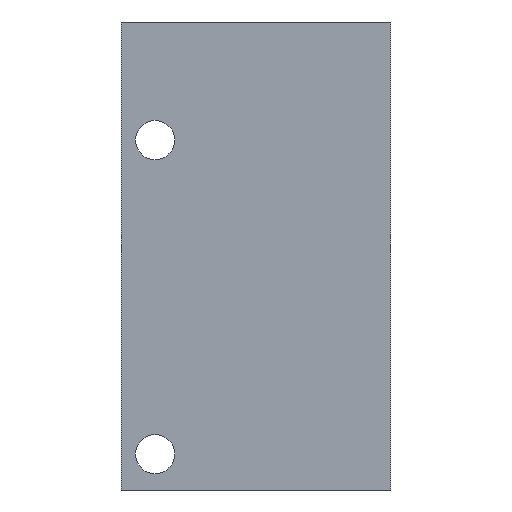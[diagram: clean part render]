
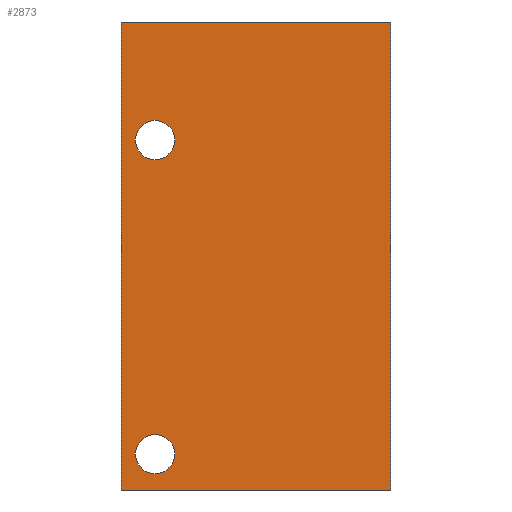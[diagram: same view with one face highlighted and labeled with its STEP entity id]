
A CAD part, front view. The second image highlights one B-rep face of the part: STEP entity #2873.
In plain terms, the highlighted planar face has unit normal (0, -1, 0).
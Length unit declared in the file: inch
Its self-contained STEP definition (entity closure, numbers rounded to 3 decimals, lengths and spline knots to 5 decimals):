
#217=LINE('',#4324,#417);
#353=LINE('',#4903,#553);
#357=LINE('',#5053,#557);
#359=LINE('',#5064,#559);
#417=VECTOR('',#3317,2.608);
#553=VECTOR('',#3549,2.608);
#557=VECTOR('',#3607,1.5);
#559=VECTOR('',#3621,1.5);
#767=PLANE('',#3073);
#853=FACE_BOUND('',#1253,.T.);
#854=FACE_BOUND('',#1254,.T.);
#855=FACE_BOUND('',#1255,.T.);
#1253=EDGE_LOOP('',(#2610));
#1254=EDGE_LOOP('',(#2611));
#1255=EDGE_LOOP('',(#2612,#2613,#2614,#2615));
#1380=CIRCLE('',#3031,0.10938);
#1382=CIRCLE('',#3034,0.10938);
#1513=VERTEX_POINT('',#4317);
#1516=VERTEX_POINT('',#4322);
#1626=VERTEX_POINT('',#4900);
#1627=VERTEX_POINT('',#4902);
#1634=VERTEX_POINT('',#4922);
#1636=VERTEX_POINT('',#4927);
#1799=EDGE_CURVE('',#1516,#1513,#217,.T.);
#1963=EDGE_CURVE('',#1627,#1626,#353,.T.);
#1971=EDGE_CURVE('',#1634,#1634,#1380,.T.);
#1973=EDGE_CURVE('',#1636,#1636,#1382,.T.);
#1983=EDGE_CURVE('',#1627,#1516,#357,.T.);
#1988=EDGE_CURVE('',#1626,#1513,#359,.T.);
#2610=ORIENTED_EDGE('',*,*,#1971,.T.);
#2611=ORIENTED_EDGE('',*,*,#1973,.T.);
#2612=ORIENTED_EDGE('',*,*,#1988,.T.);
#2613=ORIENTED_EDGE('',*,*,#1799,.F.);
#2614=ORIENTED_EDGE('',*,*,#1983,.F.);
#2615=ORIENTED_EDGE('',*,*,#1963,.T.);
#2873=ADVANCED_FACE('',(#853,#854,#855),#767,.T.);
#3031=AXIS2_PLACEMENT_3D('',#4923,#3572,#3573);
#3034=AXIS2_PLACEMENT_3D('',#4928,#3578,#3579);
#3073=AXIS2_PLACEMENT_3D('',#5092,#3660,#3661);
#3317=DIRECTION('',(0.,0.,1.));
#3549=DIRECTION('',(0.,0.,1.));
#3572=DIRECTION('center_axis',(0.,1.,0.));
#3573=DIRECTION('ref_axis',(1.,0.,0.));
#3578=DIRECTION('center_axis',(0.,1.,0.));
#3579=DIRECTION('ref_axis',(1.,0.,0.));
#3607=DIRECTION('',(-1.,0.,0.));
#3621=DIRECTION('',(-1.,0.,0.));
#3660=DIRECTION('center_axis',(0.,-1.,0.));
#3661=DIRECTION('ref_axis',(0.,0.,-1.));
#4317=CARTESIAN_POINT('',(-0.75,-0.5,2.608));
#4322=CARTESIAN_POINT('',(-0.75,-0.5,0.));
#4324=CARTESIAN_POINT('',(-0.75,-0.5,0.));
#4900=CARTESIAN_POINT('',(0.75,-0.5,2.608));
#4902=CARTESIAN_POINT('',(0.75,-0.5,0.));
#4903=CARTESIAN_POINT('',(0.75,-0.5,0.));
#4922=CARTESIAN_POINT('',(-0.45313,-0.5,0.2));
#4923=CARTESIAN_POINT('Origin',(-0.5625,-0.5,0.2));
#4927=CARTESIAN_POINT('',(-0.45313,-0.5,1.95));
#4928=CARTESIAN_POINT('Origin',(-0.5625,-0.5,1.95));
#5053=CARTESIAN_POINT('',(0.75,-0.5,0.));
#5064=CARTESIAN_POINT('',(0.75,-0.5,2.608));
#5092=CARTESIAN_POINT('Origin',(0.75,-0.5,0.));
